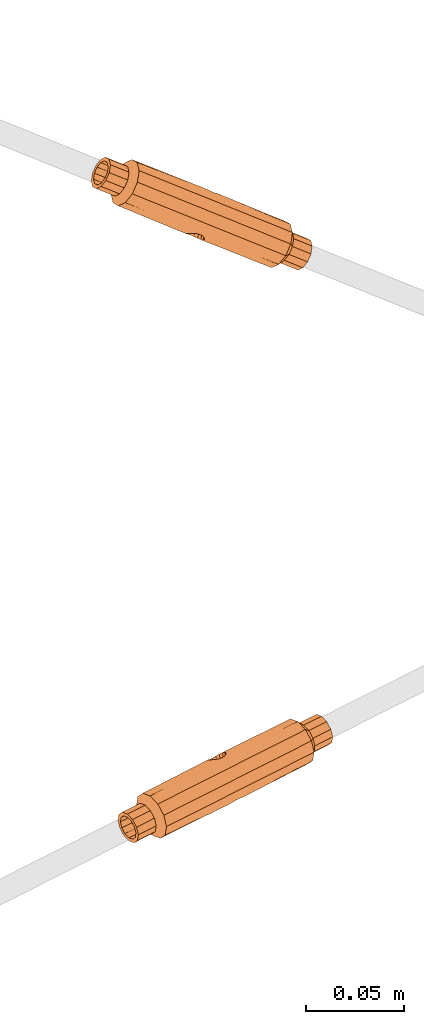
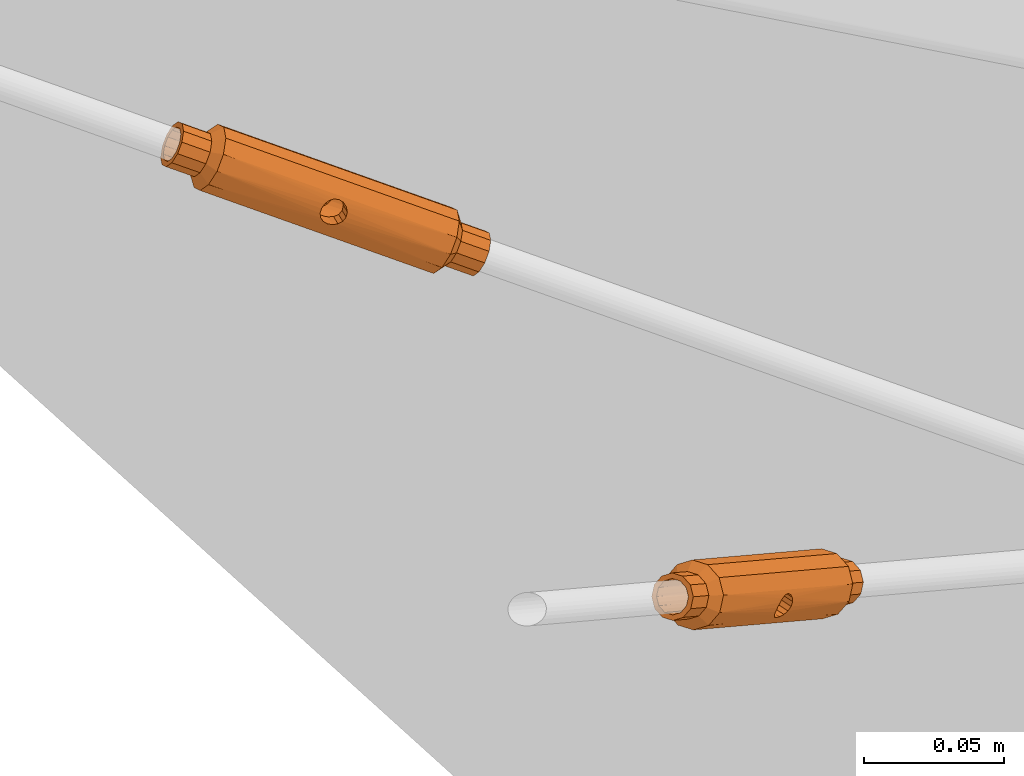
# One storey, part 280 of 288: 2 proxies.
"""IFC2X3 building model written with IfcOpenShell, lengths in millimetres."""

from ifc_helpers import new_model, entity, si_unit, converted_unit, origin_with_axes, place, context, project, spatial, faceted_brep, material, element, save


model = new_model("IFC2X3")

# Units and contexts
model_context = context("Model", 3, precision=1e-09, world=origin_with_axes())
ifc_project = project(units=[si_unit("LENGTHUNIT", "METRE", prefix="MILLI"), si_unit("AREAUNIT", "SQUARE_METRE"), si_unit("VOLUMEUNIT", "CUBIC_METRE"), converted_unit("PLANEANGLEUNIT", "DEGREE", entity("IfcPlaneAngleMeasure", 0.01745329), si_unit("PLANEANGLEUNIT", "RADIAN"), dimensions=[0, 0, 0, 0, 0, 0, 0])], contexts=[model_context])

# Site, building, storey
site_placement = place(None, origin_with_axes())
site = spatial("IfcSite", under=ifc_project, at=site_placement, Name="Remont ?wietlik?w nad MC w NCPP w Opolu", CompositionType="ELEMENT")
building_placement = place(site_placement, origin_with_axes())
building = spatial("IfcBuilding", under=site, at=building_placement, Name="Konstrukcja 1", CompositionType="ELEMENT")
storey_placement = place(building_placement, origin_with_axes())
storey = spatial("IfcBuildingStorey", under=building, at=storey_placement, Name="Default Storey", CompositionType="ELEMENT", Elevation=0.0)

# Proxies
ifc_material = material(Name="Brak")
proxy_1_placement = place(None, origin_with_axes())
element("IfcBuildingElementProxy", 1, at=proxy_1_placement, inside=storey, material=ifc_material, ObjectType="Turnbuckle", context=model_context, shape_type="Brep", body=[
    faceted_brep([(386.27047019, 4660.56911473, 866.727944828), (386.800764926, 4659.222307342, 865.246392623), (388.752324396, 4665.857394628, 863.952581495), (440.620190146, 4638.922462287, 836.164353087), (393.915153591, 4658.638807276, 864.185951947), (392.017708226, 4658.250790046, 863.457918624), (388.968077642, 4657.956220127, 863.688953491), (389.969323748, 4657.944171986, 863.443566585), (391.905762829, 4664.585358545, 862.158358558), (387.341080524, 4658.612519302, 864.614671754), (390.092301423, 4665.062254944, 862.752194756), (442.488523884, 4639.811865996, 838.817491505), (386.38286004, 4661.677188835, 868.471627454), (388.073540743, 4666.764717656, 865.570234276), (387.124316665, 4662.144716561, 870.31825887), (388.09477334, 4667.497310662, 867.403985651), (338.09388048, 4680.279592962, 894.499107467), (345.094133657, 4675.075626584, 885.849187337), (346.775267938, 4675.744397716, 880.830296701), (344.208123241, 4669.81289027, 880.523622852), (343.353950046, 4671.054851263, 885.641303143), (350.331799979, 4680.156450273, 883.953105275), (388.783694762, 4667.805417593, 869.221478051), (395.326421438, 4658.836146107, 865.65147852), (428.251795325, 4648.725030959, 839.618691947), (393.871112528, 4664.426089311, 862.271569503), (395.665213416, 4664.443541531, 863.096605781), (424.695263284, 4644.312978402, 836.495883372), (388.072526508, 4658.172118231, 864.087183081), (438.770793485, 4636.628194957, 834.540492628), (336.244483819, 4677.985325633, 892.875247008), (333.908034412, 4674.859209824, 890.985115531), (335.653692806, 4678.892634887, 891.193653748), (342.75072062, 4667.081450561, 887.398087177), (333.302907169, 4670.873308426, 892.747426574), (443.041649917, 4641.69876634, 838.451897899), (444.854964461, 4640.713060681, 842.337718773), (445.552511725, 4637.842702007, 845.598669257), (444.947384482, 4633.856800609, 847.360980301), (443.201726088, 4629.823375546, 847.152442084), (440.7832843, 4626.823179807, 845.028932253), (438.340078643, 4625.660113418, 841.559443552), (436.526764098, 4626.645819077, 837.673622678), (435.829216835, 4629.51617775, 834.412672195), (436.434344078, 4633.502079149, 832.650361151), (438.180002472, 4637.535504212, 832.858899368), (440.598444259, 4640.535699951, 834.982409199), (444.408594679, 4636.863110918, 844.282669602), (443.875176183, 4639.05809108, 841.789001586), (437.435878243, 4633.543811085, 834.381022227), (436.973133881, 4630.49576884, 835.728671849), (437.506552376, 4628.300788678, 838.222339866), (438.893204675, 4627.547013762, 841.193849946), (440.761538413, 4628.436417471, 843.846988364), (442.610935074, 4630.730684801, 845.470848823), (443.945850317, 4633.815068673, 845.630319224), (339.962214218, 4681.168996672, 897.152245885), (338.072134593, 4681.892830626, 893.317163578), (347.504990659, 4678.066413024, 887.966037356), (353.924749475, 4681.866842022, 889.05529454), (388.364895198, 4661.759776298, 871.896604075), (390.0218751, 4667.577609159, 870.734036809), (395.897188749, 4658.721394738, 867.610928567), (396.985799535, 4664.496847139, 864.554697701), (431.16602377, 4644.340555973, 840.349206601), (433.609229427, 4645.503622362, 843.818695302), (395.590444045, 4658.399658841, 869.631641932), (334.000454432, 4668.002949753, 896.008377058), (335.813768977, 4667.017244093, 899.894197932), (338.256974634, 4668.180310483, 903.363686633), (340.675416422, 4671.180506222, 905.487196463), (342.421074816, 4675.213931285, 905.69573468), (343.026202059, 4679.199832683, 903.933423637), (342.328654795, 4682.070191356, 900.672473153), (340.515340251, 4683.055897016, 896.786652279), (338.235228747, 4669.793548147, 902.181742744), (336.366895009, 4668.904144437, 899.528604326), (334.98024271, 4669.657919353, 896.557094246), (334.446824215, 4671.852899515, 894.063426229), (334.909568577, 4674.900941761, 892.715776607), (341.348866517, 4680.415221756, 900.123755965), (341.882285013, 4678.220241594, 902.617423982), (341.419540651, 4675.172199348, 903.965073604), (340.084625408, 4672.087815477, 903.805603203), (383.264974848, 4650.316351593, 868.714453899), (384.267176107, 4650.579377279, 866.92099085), (382.958230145, 4649.994615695, 870.735167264), (343.318230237, 4663.951270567, 883.11525674), (422.128118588, 4638.381470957, 836.189209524), (428.747581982, 4641.340360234, 838.225696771), (343.446080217, 4664.220093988, 890.648810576), (391.615836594, 4666.912318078, 871.691357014), (389.843206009, 4660.717983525, 872.901668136), (397.592315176, 4664.523840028, 866.426656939), (431.844744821, 4650.435422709, 844.720881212), (397.413408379, 4664.573689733, 868.39269224), (394.588242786, 4658.136633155, 871.425104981), (396.52853779, 4664.777980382, 870.146560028), (393.876238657, 4658.160733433, 872.170304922), (391.419683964, 4659.41476851, 873.227931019), (393.375099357, 4666.050016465, 871.940782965), (382.326881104, 4643.938030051, 868.199535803), (381.442010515, 4644.1423207, 869.953403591), (383.528997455, 4649.879864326, 872.694617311), (381.263103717, 4644.192170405, 871.919438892), (384.979180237, 4650.555277, 866.175790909), (349.940533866, 4679.225831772, 891.424644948), (393.080197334, 4658.380777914, 872.740488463), (395.099972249, 4665.270914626, 871.405500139), (392.249241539, 4658.817032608, 873.096023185), (435.422543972, 4644.517916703, 847.704516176), (345.253707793, 4663.237479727, 894.522444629), (384.940265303, 4650.077203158, 874.160143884), (381.869619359, 4644.219163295, 873.79139813), (383.755446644, 4643.445095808, 866.940595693), (344.344035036, 4659.730154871, 887.910772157), (421.238225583, 4632.519851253, 838.780843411), (427.001923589, 4637.306935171, 838.017158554), (385.775221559, 4650.33523252, 865.605607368), (356.591388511, 4680.417274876, 894.769737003), (434.511383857, 4648.985855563, 850.435323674), (347.010674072, 4658.280587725, 893.625214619), (383.190205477, 4644.272468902, 875.24949005), (386.606177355, 4649.898977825, 865.250072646), (351.748161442, 4678.24321751, 895.298279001), (436.120091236, 4641.64755803, 850.96546666), (388.886095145, 4650.771838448, 874.902529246), (386.837710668, 4650.465220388, 874.888177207), (347.689251, 4664.396898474, 897.98105222), (384.984306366, 4644.289921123, 876.074526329), (385.480319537, 4642.665993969, 866.405312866), (422.264030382, 4628.298735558, 843.576358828), (426.396796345, 4633.321033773, 839.779469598), (387.43573493, 4649.301241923, 865.118164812), (389.012212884, 4647.998026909, 865.444427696), (387.2395823, 4641.803692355, 866.654738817), (390.490523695, 4646.956234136, 866.449491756), (388.833543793, 4641.138401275, 867.612059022), (391.731102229, 4646.571293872, 868.027836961), (389.887341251, 4650.759790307, 874.65714234), (390.782892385, 4650.543892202, 874.25891275), (386.949656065, 4644.130651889, 876.187737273), (391.514338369, 4650.103491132, 873.731424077), (390.071724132, 4640.910592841, 869.12461778), (352.443521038, 4675.381860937, 898.549002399), (357.617193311, 4676.19615918, 899.56525242), (435.537188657, 4644.764739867, 855.230839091), (392.472558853, 4647.038821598, 869.874468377), (392.584948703, 4648.146895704, 871.618151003), (435.514963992, 4637.661656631, 852.727777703), (392.054653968, 4649.493703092, 873.099703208), (388.76311747, 4643.65375549, 875.593901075), (390.103094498, 4642.858615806, 874.393514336), (351.840291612, 4671.408460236, 900.305786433), (350.100108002, 4667.387684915, 900.09790224), (350.603623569, 4659.990979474, 898.727403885), (390.781878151, 4641.951292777, 872.775861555), (390.760645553, 4641.218699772, 870.94211018), (424.930669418, 4626.849168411, 849.290801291), (427.094343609, 4630.450675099, 843.040420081), (356.727300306, 4670.334539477, 902.156886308), (434.647295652, 4638.903120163, 857.822472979), (433.769305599, 4633.628231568, 852.519239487), (428.523618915, 4628.559560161, 854.392990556), (354.160155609, 4664.403032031, 901.850212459), (428.907658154, 4629.46496944, 846.926240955), (432.080150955, 4632.971612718, 857.515799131), (431.350863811, 4630.628035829, 850.395729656)], [[[0, 1, 2]], [[3, 4, 5]], [[6, 7, 8]], [[9, 10, 2]], [[1, 9, 2]], [[3, 5, 7]], [[3, 11, 4]], [[12, 0, 13]], [[14, 12, 15]], [[16, 1, 0]], [[17, 18, 19, 20]], [[12, 13, 15]], [[0, 2, 13]], [[21, 2, 10]], [[14, 15, 22]], [[11, 23, 4]], [[7, 5, 8]], [[6, 8, 10]], [[24, 21, 10]], [[5, 4, 25]], [[4, 23, 26]], [[21, 24, 27, 18]], [[28, 6, 10]], [[29, 7, 6]], [[9, 28, 10]], [[30, 9, 1]], [[20, 31, 32, 17]], [[33, 34, 31, 20]], [[29, 3, 7]], [[35, 36, 37, 38, 39, 40, 41, 42, 43, 44, 45, 46], [47, 48, 11, 3, 29, 49, 50, 51, 52, 53, 54, 55]], [[16, 0, 12]], [[56, 12, 14]], [[16, 30, 1]], [[17, 32, 57, 58]], [[18, 17, 58, 21]], [[59, 15, 13]], [[21, 13, 2]], [[60, 14, 61]], [[14, 22, 61]], [[59, 22, 15]], [[11, 62, 23]], [[23, 63, 26]], [[5, 25, 8]], [[24, 10, 8]], [[4, 26, 25]], [[46, 64, 65, 35]], [[48, 66, 62]], [[11, 48, 62]], [[67, 68, 69, 70, 71, 72, 73, 74, 57, 32, 31, 34], [75, 76, 77, 78, 79, 30, 16, 56, 80, 81, 82, 83]], [[77, 84, 85]], [[77, 86, 84]], [[77, 76, 86]], [[20, 19, 87, 33]], [[18, 27, 88, 19]], [[64, 46, 45, 89]], [[78, 77, 85]], [[29, 6, 28]], [[30, 28, 9]], [[34, 33, 90, 67]], [[56, 16, 12]], [[56, 14, 60]], [[21, 59, 13]], [[60, 61, 91]], [[59, 61, 22]], [[92, 60, 91]], [[23, 62, 93]], [[23, 93, 63]], [[94, 26, 63]], [[62, 66, 95]], [[66, 96, 97]], [[24, 8, 25]], [[94, 25, 26]], [[24, 64, 89, 27]], [[47, 98, 96]], [[48, 96, 66]], [[99, 92, 100]], [[80, 60, 92]], [[101, 85, 84]], [[102, 84, 86]], [[76, 103, 86]], [[104, 86, 103]], [[101, 105, 85]], [[78, 85, 105]], [[30, 29, 28]], [[80, 56, 60]], [[58, 57, 74, 106]], [[21, 58, 106, 59]], [[59, 91, 61]], [[96, 98, 97]], [[107, 108, 98]], [[107, 109, 108]], [[109, 99, 100]], [[92, 91, 100]], [[62, 95, 93]], [[94, 63, 93]], [[66, 97, 95]], [[94, 24, 25]], [[64, 24, 94, 65]], [[35, 65, 110, 36]], [[81, 109, 107]], [[47, 107, 98]], [[48, 47, 96]], [[80, 92, 99]], [[81, 99, 109]], [[67, 90, 111, 68]], [[102, 101, 84]], [[104, 102, 86]], [[76, 112, 103]], [[113, 104, 103]], [[101, 114, 105]], [[33, 87, 115, 90]], [[19, 88, 116, 87]], [[27, 89, 117, 88]], [[89, 45, 44, 117]], [[114, 118, 105]], [[78, 105, 118]], [[29, 30, 79, 49]], [[59, 119, 91]], [[98, 108, 97]], [[109, 100, 108]], [[119, 100, 91]], [[94, 93, 95]], [[120, 95, 97]], [[47, 81, 107]], [[81, 80, 99]], [[76, 75, 112]], [[115, 101, 102]], [[121, 102, 104]], [[122, 103, 112]], [[122, 113, 103]], [[121, 104, 113]], [[115, 114, 101]], [[114, 123, 118]], [[50, 78, 118]], [[78, 50, 49, 79]], [[106, 74, 73, 124]], [[59, 106, 124, 119]], [[120, 97, 108]], [[119, 108, 100]], [[120, 94, 95]], [[65, 94, 120, 110]], [[36, 110, 125, 37]], [[81, 47, 55, 82]], [[75, 83, 126]], [[75, 127, 112]], [[75, 126, 127]], [[68, 111, 128, 69]], [[90, 115, 121, 111]], [[121, 115, 102]], [[129, 122, 112]], [[121, 113, 122]], [[114, 130, 123]], [[115, 131, 114]], [[87, 116, 131, 115]], [[88, 117, 132, 116]], [[117, 44, 43, 132]], [[130, 133, 123]], [[50, 118, 123]], [[130, 134, 133]], [[135, 136, 134]], [[137, 138, 136]], [[119, 120, 108]], [[83, 139, 126]], [[83, 140, 139]], [[129, 112, 127]], [[127, 126, 141]], [[54, 142, 140]], [[121, 122, 129]], [[137, 143, 138]], [[135, 137, 136]], [[130, 135, 134]], [[131, 130, 114]], [[50, 123, 133]], [[51, 133, 134]], [[51, 134, 136]], [[52, 136, 138]], [[124, 73, 72, 144]], [[119, 124, 144, 145]], [[120, 119, 145, 146]], [[110, 120, 146, 125]], [[52, 138, 147]], [[53, 147, 148]], [[37, 125, 149, 38]], [[53, 148, 150]], [[54, 150, 142]], [[83, 54, 140]], [[82, 55, 54, 83]], [[126, 139, 141]], [[139, 140, 151]], [[127, 141, 129]], [[140, 142, 151]], [[152, 142, 150]], [[71, 153, 144, 72]], [[70, 154, 153, 71]], [[69, 128, 154, 70]], [[111, 121, 155, 128]], [[155, 121, 129]], [[152, 150, 148]], [[156, 148, 147]], [[157, 147, 138]], [[143, 157, 138]], [[158, 143, 137]], [[158, 137, 135]], [[131, 135, 130]], [[116, 132, 159, 131]], [[132, 43, 42, 159]], [[51, 50, 133]], [[52, 51, 136]], [[53, 52, 147]], [[54, 53, 150]], [[139, 151, 141]], [[155, 129, 141]], [[152, 151, 142]], [[156, 152, 148]], [[157, 156, 147]], [[158, 157, 143]], [[131, 158, 135]], [[145, 144, 153, 160]], [[146, 145, 160, 161]], [[125, 146, 161, 149]], [[38, 149, 162, 39]], [[155, 141, 151]], [[163, 151, 152]], [[154, 164, 160, 153]], [[128, 155, 164, 154]], [[163, 152, 156]], [[158, 156, 157]], [[131, 159, 165, 158]], [[159, 42, 41, 165]], [[163, 155, 151]], [[158, 163, 156]], [[161, 160, 164, 166]], [[149, 161, 166, 162]], [[40, 167, 165, 41]], [[39, 162, 167, 40]], [[155, 163, 166, 164]], [[158, 165, 167, 163]], [[162, 166, 163, 167]]]),
])
proxy_2_placement = place(None, origin_with_axes())
element("IfcBuildingElementProxy", 2, at=proxy_2_placement, inside=storey, material=ifc_material, ObjectType="Turnbuckle", context=model_context, shape_type="Brep", body=[
    faceted_brep([(394.919834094, 4370.811448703, 868.709566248), (395.940450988, 4370.632833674, 866.916095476), (393.453990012, 4377.089548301, 868.194869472), (447.140237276, 4397.267353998, 838.218299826), (401.840561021, 4374.761520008, 866.444731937), (400.454111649, 4373.600306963, 865.439629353), (398.214685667, 4371.50565533, 865.245204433), (398.991600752, 4372.170382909, 865.113318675), (396.490579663, 4378.619760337, 866.400695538), (396.647975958, 4370.716151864, 866.170897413), (394.836556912, 4377.699745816, 866.935948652), (448.459327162, 4398.133849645, 841.18983824), (394.587372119, 4371.106460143, 870.730290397), (392.589201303, 4376.81223862, 869.948728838), (395.146607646, 4371.268262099, 872.689745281), (392.415068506, 4376.74759903, 871.914762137), (348.412978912, 4347.51626595, 896.551461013), (355.941973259, 4350.731015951, 887.392555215), (356.246913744, 4353.897725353, 883.10983489), (357.621703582, 4348.130629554, 880.517997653), (356.873898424, 4346.821689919, 885.635633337), (356.917749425, 4358.189420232, 887.905499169), (393.021728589, 4376.77112795, 873.786721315), (403.044788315, 4375.248349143, 868.023092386), (431.950465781, 4396.000247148, 843.572296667), (398.171947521, 4379.625521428, 866.650154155), (399.704990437, 4380.421169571, 867.607499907), (431.2796301, 4391.708552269, 838.776632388), (397.422933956, 4371.001724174, 865.600722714), (446.791402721, 4395.035672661, 835.724554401), (348.064144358, 4345.284584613, 894.057715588), (347.777500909, 4342.243962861, 890.979299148), (346.842643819, 4346.165588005, 892.74174847), (358.942777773, 4342.959738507, 885.843379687), (349.852889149, 4338.369861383, 891.187699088), (447.751034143, 4399.968138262, 841.555496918), (450.282590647, 4399.0123893, 845.024948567), (452.942411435, 4396.223873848, 847.148357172), (455.017799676, 4392.349772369, 847.356757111), (455.952656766, 4388.428147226, 845.59430779), (455.496488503, 4385.509794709, 842.33325608), (453.771524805, 4384.376685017, 838.447398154), (451.239968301, 4385.332433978, 834.977946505), (448.580147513, 4388.12094943, 832.854537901), (446.504759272, 4391.995050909, 832.646137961), (445.569902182, 4395.916676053, 834.408587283), (446.026070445, 4398.83502857, 837.669638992), (452.429203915, 4395.270588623, 845.466731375), (450.395223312, 4397.402982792, 843.842948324), (447.506293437, 4392.036782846, 834.376799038), (449.093355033, 4389.074234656, 834.536163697), (451.127335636, 4386.941840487, 836.159946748), (453.063231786, 4386.210973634, 838.813056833), (454.382321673, 4387.07746928, 841.784595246), (454.731156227, 4389.309150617, 844.278340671), (454.016265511, 4392.308040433, 845.626096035), (349.732068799, 4348.382761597, 899.522999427), (347.298812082, 4349.083940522, 896.002800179), (356.396710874, 4353.640215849, 890.643379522), (359.454460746, 4359.855758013, 893.619996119), (396.569407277, 4371.189047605, 874.155267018), (394.342170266, 4376.827897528, 875.244813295), (403.822596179, 4374.844107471, 869.869708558), (400.919909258, 4380.751214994, 869.12006842), (436.943162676, 4394.25792847, 843.036289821), (438.668126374, 4395.391038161, 846.922147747), (404.026847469, 4373.749175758, 871.61335266), (352.512709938, 4335.581345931, 893.311107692), (355.044266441, 4334.625596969, 896.780559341), (356.76923014, 4335.758706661, 900.666417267), (357.225398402, 4338.677059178, 903.927468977), (356.290541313, 4342.598684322, 905.689918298), (354.215153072, 4346.472785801, 905.481518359), (351.555332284, 4349.261301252, 903.358109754), (349.02377578, 4350.217050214, 899.888658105), (355.655063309, 4337.326381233, 900.117756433), (354.335973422, 4336.459885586, 897.14621802), (352.400077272, 4337.190752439, 894.493107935), (350.36609667, 4339.323146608, 892.869324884), (348.779035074, 4342.285694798, 892.709960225), (351.667964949, 4347.651894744, 902.176109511), (353.701945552, 4345.519500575, 903.799892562), (355.289007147, 4342.556952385, 903.959257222), (356.003897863, 4339.55806257, 902.611501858), (398.768453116, 4360.844559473, 866.722703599), (399.184780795, 4362.230891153, 865.241199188), (398.972704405, 4359.74962776, 868.466347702), (360.673745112, 4342.433421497, 880.824468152), (432.654419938, 4385.94145647, 836.184795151), (436.486994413, 4391.339575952, 839.775238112), (361.594256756, 4340.179968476, 887.960128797), (396.131497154, 4376.959839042, 876.069851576), (398.492569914, 4370.960317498, 874.883289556), (401.632092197, 4380.501468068, 870.937551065), (434.487177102, 4397.66658493, 849.286793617), (401.714243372, 4379.77312185, 872.771276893), (403.61051979, 4372.362844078, 873.094857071), (401.113354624, 4378.812382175, 874.388897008), (403.122846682, 4371.710168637, 873.726555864), (400.559370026, 4370.825294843, 874.897633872), (398.076764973, 4377.282170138, 876.183070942), (401.681945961, 4355.781353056, 863.947159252), (401.081057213, 4354.820613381, 865.564779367), (399.750512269, 4359.345386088, 870.312963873), (401.163208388, 4354.092267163, 867.398505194), (399.672453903, 4362.883566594, 864.609500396), (358.116264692, 4354.76977185, 894.51705051), (402.430604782, 4371.210383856, 874.254028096), (399.844227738, 4377.908405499, 875.589254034), (401.556136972, 4370.92066517, 874.652248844), (441.199682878, 4394.4352892, 850.391599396), (364.117873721, 4339.227216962, 891.418699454), (400.954739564, 4359.832215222, 871.891324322), (401.875391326, 4353.842520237, 869.215987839), (402.951072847, 4356.685329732, 862.746802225), (364.585246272, 4338.33266348, 883.947127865), (435.706461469, 4380.244248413, 836.49126565), (437.421851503, 4387.417950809, 838.012788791), (400.364695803, 4363.383351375, 864.082028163), (363.177337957, 4358.450244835, 898.722130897), (438.210054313, 4396.261071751, 854.388928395), (368.308123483, 4336.927150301, 889.049262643), (403.090310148, 4354.17256566, 870.728556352), (401.239163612, 4363.673070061, 863.683807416), (360.639881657, 4353.817020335, 897.975621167), (443.859503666, 4391.646773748, 852.515008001), (403.803699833, 4362.423352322, 873.222737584), (402.341188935, 4360.993428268, 872.896426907), (365.837427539, 4340.356772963, 895.292370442), (404.623353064, 4354.968213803, 871.685902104), (404.718535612, 4357.311565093, 862.152985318), (439.617962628, 4376.143490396, 839.613925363), (439.497239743, 4383.54384933, 838.22118873), (402.235930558, 4363.768440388, 863.438422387), (404.302730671, 4363.633417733, 863.452766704), (406.663803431, 4357.633896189, 862.266204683), (406.225893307, 4363.404687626, 864.180789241), (408.453130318, 4357.765837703, 863.091242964), (407.648692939, 4363.325473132, 865.646310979), (404.580614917, 4363.088079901, 873.090851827), (405.372366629, 4363.592011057, 872.735333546), (406.304720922, 4355.973974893, 871.935360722), (406.147324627, 4363.877583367, 872.165158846), (409.773571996, 4357.822607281, 864.549334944), (363.29136064, 4351.037250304, 900.092370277), (367.088839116, 4354.349486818, 901.844790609), (442.121555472, 4392.160313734, 857.511588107), (408.207928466, 4363.487275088, 867.605765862), (407.875466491, 4363.782286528, 869.626490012), (445.934891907, 4387.772672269, 852.72340794), (406.854849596, 4363.960901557, 871.419960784), (407.958743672, 4356.893989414, 871.400107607), (409.341310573, 4357.50418693, 870.141186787), (365.360239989, 4347.175298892, 900.300116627), (366.292165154, 4343.265972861, 898.543194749), (370.844834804, 4338.593488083, 894.763759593), (410.206099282, 4357.781496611, 868.387327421), (410.380232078, 4357.8461362, 866.421294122), (443.340839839, 4374.737977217, 844.716060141), (442.157060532, 4380.755333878, 840.344597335), (370.140880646, 4348.65227876, 902.151261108), (445.173597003, 4386.463105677, 857.818058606), (446.869748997, 4383.851047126, 850.960958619), (445.87755116, 4376.404314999, 850.430557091), (371.515670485, 4342.885182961, 899.559423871), (444.688617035, 4379.799584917, 843.814048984), (446.548386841, 4380.696009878, 855.226221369), (446.413580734, 4380.932694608, 847.69990691)], [[[0, 1, 2]], [[3, 4, 5]], [[6, 7, 8]], [[9, 10, 2]], [[1, 9, 2]], [[3, 5, 7]], [[3, 11, 4]], [[12, 0, 13]], [[14, 12, 15]], [[16, 1, 0]], [[17, 18, 19, 20]], [[12, 13, 15]], [[0, 2, 13]], [[21, 2, 10]], [[14, 15, 22]], [[11, 23, 4]], [[7, 5, 8]], [[6, 8, 10]], [[24, 21, 10]], [[5, 4, 25]], [[4, 23, 26]], [[21, 24, 27, 18]], [[28, 6, 10]], [[29, 7, 6]], [[9, 28, 10]], [[30, 9, 1]], [[20, 31, 32, 17]], [[33, 34, 31, 20]], [[29, 3, 7]], [[35, 36, 37, 38, 39, 40, 41, 42, 43, 44, 45, 46], [47, 48, 11, 3, 29, 49, 50, 51, 52, 53, 54, 55]], [[16, 0, 12]], [[56, 12, 14]], [[16, 30, 1]], [[17, 32, 57, 58]], [[18, 17, 58, 21]], [[59, 15, 13]], [[21, 13, 2]], [[60, 14, 61]], [[14, 22, 61]], [[59, 22, 15]], [[11, 62, 23]], [[23, 63, 26]], [[5, 25, 8]], [[24, 10, 8]], [[4, 26, 25]], [[46, 64, 65, 35]], [[48, 66, 62]], [[11, 48, 62]], [[67, 68, 69, 70, 71, 72, 73, 74, 57, 32, 31, 34], [75, 76, 77, 78, 79, 30, 16, 56, 80, 81, 82, 83]], [[77, 84, 85]], [[77, 86, 84]], [[77, 76, 86]], [[20, 19, 87, 33]], [[18, 27, 88, 19]], [[64, 46, 45, 89]], [[78, 77, 85]], [[29, 6, 28]], [[30, 28, 9]], [[34, 33, 90, 67]], [[56, 16, 12]], [[56, 14, 60]], [[21, 59, 13]], [[60, 61, 91]], [[59, 61, 22]], [[92, 60, 91]], [[23, 62, 93]], [[23, 93, 63]], [[94, 26, 63]], [[62, 66, 95]], [[66, 96, 97]], [[24, 8, 25]], [[94, 25, 26]], [[24, 64, 89, 27]], [[47, 98, 96]], [[48, 96, 66]], [[99, 92, 100]], [[80, 60, 92]], [[101, 85, 84]], [[102, 84, 86]], [[76, 103, 86]], [[104, 86, 103]], [[101, 105, 85]], [[78, 85, 105]], [[30, 29, 28]], [[80, 56, 60]], [[58, 57, 74, 106]], [[21, 58, 106, 59]], [[59, 91, 61]], [[96, 98, 97]], [[107, 108, 98]], [[107, 109, 108]], [[109, 99, 100]], [[92, 91, 100]], [[62, 95, 93]], [[94, 63, 93]], [[66, 97, 95]], [[94, 24, 25]], [[64, 24, 94, 65]], [[35, 65, 110, 36]], [[81, 109, 107]], [[47, 107, 98]], [[48, 47, 96]], [[80, 92, 99]], [[81, 99, 109]], [[67, 90, 111, 68]], [[102, 101, 84]], [[104, 102, 86]], [[76, 112, 103]], [[113, 104, 103]], [[101, 114, 105]], [[33, 87, 115, 90]], [[19, 88, 116, 87]], [[27, 89, 117, 88]], [[89, 45, 44, 117]], [[114, 118, 105]], [[78, 105, 118]], [[29, 30, 79, 49]], [[59, 119, 91]], [[98, 108, 97]], [[109, 100, 108]], [[119, 100, 91]], [[94, 93, 95]], [[120, 95, 97]], [[47, 81, 107]], [[81, 80, 99]], [[76, 75, 112]], [[115, 101, 102]], [[121, 102, 104]], [[122, 103, 112]], [[122, 113, 103]], [[121, 104, 113]], [[115, 114, 101]], [[114, 123, 118]], [[50, 78, 118]], [[78, 50, 49, 79]], [[106, 74, 73, 124]], [[59, 106, 124, 119]], [[120, 97, 108]], [[119, 108, 100]], [[120, 94, 95]], [[65, 94, 120, 110]], [[36, 110, 125, 37]], [[81, 47, 55, 82]], [[75, 83, 126]], [[75, 127, 112]], [[75, 126, 127]], [[68, 111, 128, 69]], [[90, 115, 121, 111]], [[121, 115, 102]], [[129, 122, 112]], [[121, 113, 122]], [[114, 130, 123]], [[115, 131, 114]], [[87, 116, 131, 115]], [[88, 117, 132, 116]], [[117, 44, 43, 132]], [[130, 133, 123]], [[50, 118, 123]], [[130, 134, 133]], [[135, 136, 134]], [[137, 138, 136]], [[119, 120, 108]], [[83, 139, 126]], [[83, 140, 139]], [[129, 112, 127]], [[127, 126, 141]], [[54, 142, 140]], [[121, 122, 129]], [[137, 143, 138]], [[135, 137, 136]], [[130, 135, 134]], [[131, 130, 114]], [[50, 123, 133]], [[51, 133, 134]], [[51, 134, 136]], [[52, 136, 138]], [[124, 73, 72, 144]], [[119, 124, 144, 145]], [[120, 119, 145, 146]], [[110, 120, 146, 125]], [[52, 138, 147]], [[53, 147, 148]], [[37, 125, 149, 38]], [[53, 148, 150]], [[54, 150, 142]], [[83, 54, 140]], [[82, 55, 54, 83]], [[126, 139, 141]], [[139, 140, 151]], [[127, 141, 129]], [[140, 142, 151]], [[152, 142, 150]], [[71, 153, 144, 72]], [[70, 154, 153, 71]], [[69, 128, 154, 70]], [[111, 121, 155, 128]], [[155, 121, 129]], [[152, 150, 148]], [[156, 148, 147]], [[157, 147, 138]], [[143, 157, 138]], [[158, 143, 137]], [[158, 137, 135]], [[131, 135, 130]], [[116, 132, 159, 131]], [[132, 43, 42, 159]], [[51, 50, 133]], [[52, 51, 136]], [[53, 52, 147]], [[54, 53, 150]], [[139, 151, 141]], [[155, 129, 141]], [[152, 151, 142]], [[156, 152, 148]], [[157, 156, 147]], [[158, 157, 143]], [[131, 158, 135]], [[145, 144, 153, 160]], [[146, 145, 160, 161]], [[125, 146, 161, 149]], [[38, 149, 162, 39]], [[155, 141, 151]], [[163, 151, 152]], [[154, 164, 160, 153]], [[128, 155, 164, 154]], [[163, 152, 156]], [[158, 156, 157]], [[131, 159, 165, 158]], [[159, 42, 41, 165]], [[163, 155, 151]], [[158, 163, 156]], [[161, 160, 164, 166]], [[149, 161, 166, 162]], [[40, 167, 165, 41]], [[39, 162, 167, 40]], [[155, 163, 166, 164]], [[158, 165, 167, 163]], [[162, 166, 163, 167]]]),
])

save(model, "model.ifc")
